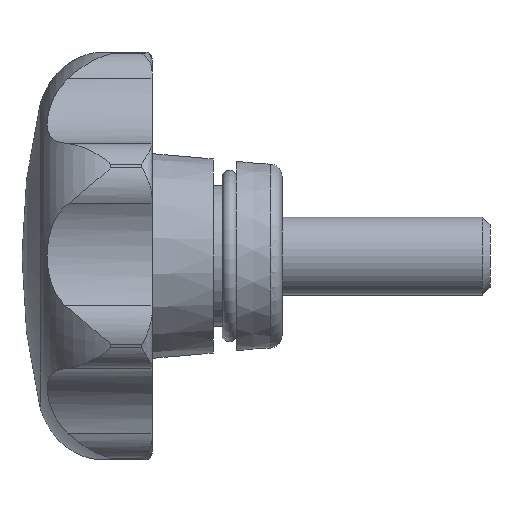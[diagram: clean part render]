
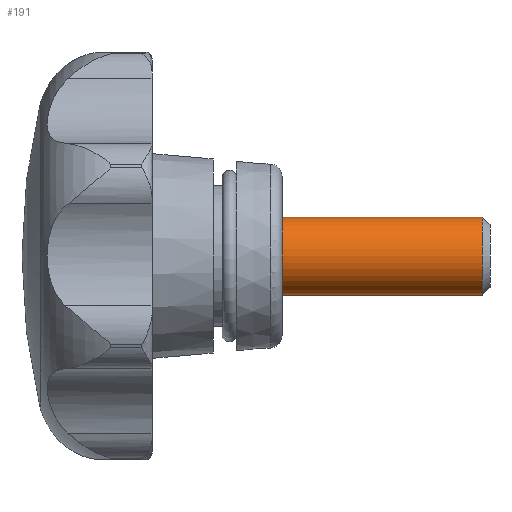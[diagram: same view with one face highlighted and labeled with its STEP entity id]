
A CAD part, left-side view. The second image highlights one B-rep face of the part: STEP entity #191.
In plain terms, the highlighted cylindrical face has radius 3 mm (diameter 6 mm), a full revolution.
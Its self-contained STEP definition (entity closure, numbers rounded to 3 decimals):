
#191 = ADVANCED_FACE( '', ( #399, #400 ), #401, .T. );
#399 = FACE_OUTER_BOUND( '', #793, .T. );
#400 = FACE_OUTER_BOUND( '', #794, .T. );
#401 = CYLINDRICAL_SURFACE( '', #795, 3. );
#793 = EDGE_LOOP( '', ( #1279 ) );
#794 = EDGE_LOOP( '', ( #1280 ) );
#795 = AXIS2_PLACEMENT_3D( '', #1281, #1282, #1283 );
#1279 = ORIENTED_EDGE( '', *, *, #2552, .F. );
#1280 = ORIENTED_EDGE( '', *, *, #2553, .T. );
#1281 = CARTESIAN_POINT( '', ( 0., -16., 0. ) );
#1282 = DIRECTION( '', ( 0., 1., 0. ) );
#1283 = DIRECTION( '', ( 0., 0., -1. ) );
#2552 = EDGE_CURVE( '', #3036, #3036, #3037, .T. );
#2553 = EDGE_CURVE( '', #3038, #3038, #3039, .T. );
#3036 = VERTEX_POINT( '', #3894 );
#3037 = CIRCLE( '', #3895, 3. );
#3038 = VERTEX_POINT( '', #3896 );
#3039 = CIRCLE( '', #3897, 3. );
#3894 = CARTESIAN_POINT( '', ( 0., -15.387, -3. ) );
#3895 = AXIS2_PLACEMENT_3D( '', #5757, #5758, #5759 );
#3896 = CARTESIAN_POINT( '', ( 0., 0., -3. ) );
#3897 = AXIS2_PLACEMENT_3D( '', #5760, #5761, #5762 );
#5757 = CARTESIAN_POINT( '', ( 0., -15.387, 0. ) );
#5758 = DIRECTION( '', ( 0., -1., 0. ) );
#5759 = DIRECTION( '', ( 0., 0., -1. ) );
#5760 = CARTESIAN_POINT( '', ( 0., 0., 0. ) );
#5761 = DIRECTION( '', ( 0., -1., 0. ) );
#5762 = DIRECTION( '', ( 0., 0., -1. ) );
